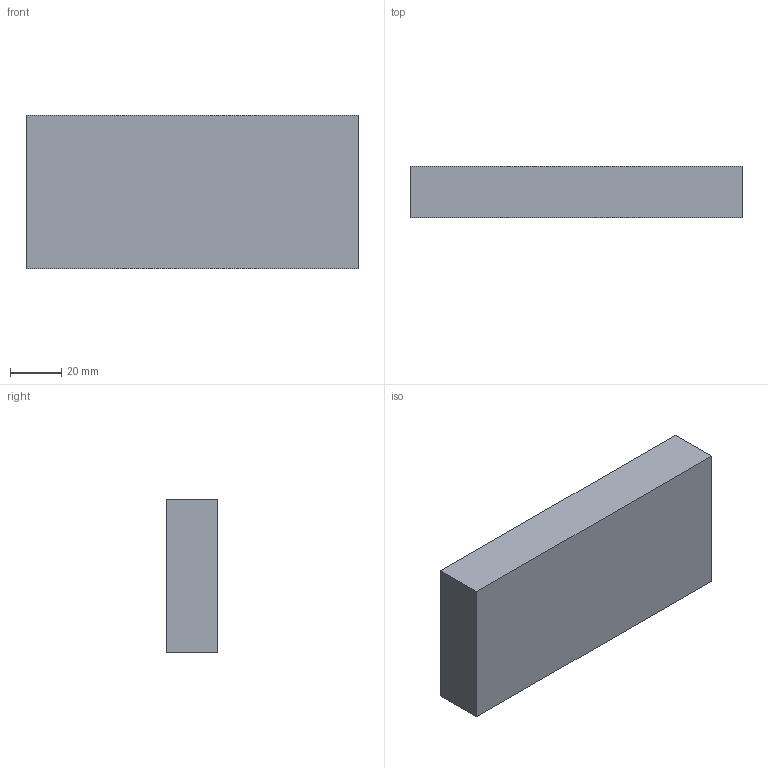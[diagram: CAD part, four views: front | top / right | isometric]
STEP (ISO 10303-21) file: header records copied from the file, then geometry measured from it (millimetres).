
FILE_DESCRIPTION(('Open CASCADE Model'),'2;1');
FILE_NAME('Open CASCADE Shape Model','2026-09-19T12:55:23',('Author'),( 'Open CASCADE'),'Open CASCADE STEP processor 7.9','Open CASCADE 7.9' ,'Unknown');
FILE_SCHEMA(('AUTOMOTIVE_DESIGN { 1 0 10303 214 1 1 1 1 }'));
Length unit declared in the file: millimetre
Products named in the file (1): Open CASCADE STEP translator 7.9 424
Bounding box: 130 x 20 x 60 mm (x, y, z)
Volume: 156000 mm3; surface area: 23200 mm2
Topology: 1 solids, 1 shells, 6 faces, 12 edges, 8 vertices
Faces by surface type: plane 6
Entity records: 322 total; most frequent: CARTESIAN_POINT 51, DIRECTION 50, LINE 36, VECTOR 36, ORIENTED_EDGE 24, PCURVE 24, DEFINITIONAL_REPRESENTATION 24, EDGE_CURVE 12
